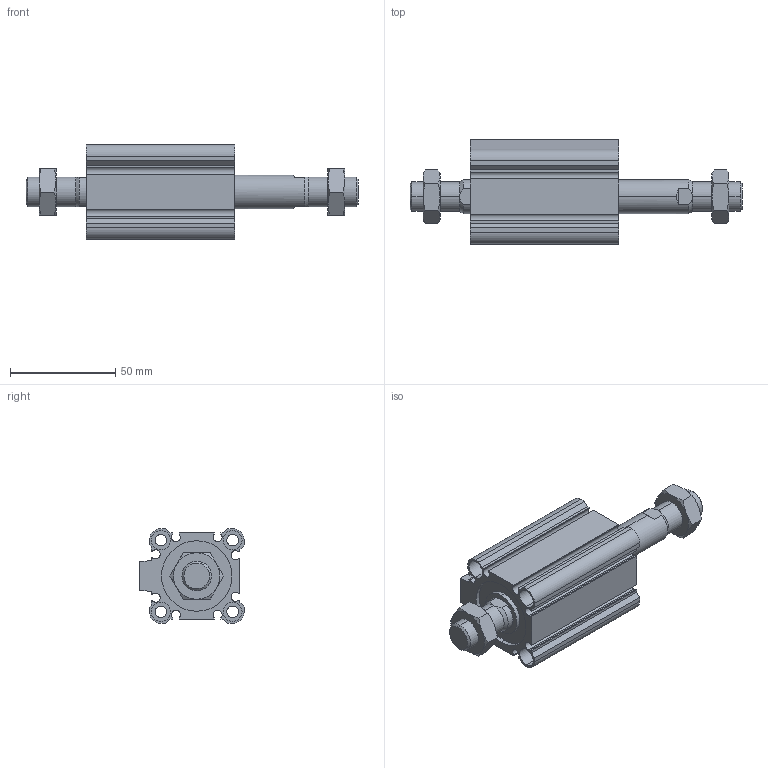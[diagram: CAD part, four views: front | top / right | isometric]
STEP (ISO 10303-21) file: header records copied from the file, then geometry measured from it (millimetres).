
FILE_DESCRIPTION (( 'STEP AP203' ), '1' );
FILE_NAME ('CCMB32-30M-P.STEP', '2020-08-10T11:34:00', ( '' ), ( '' ), 'SwSTEP 2.0', 'SolidWorks 2019', '' );
FILE_SCHEMA (( 'CONFIG_CONTROL_DESIGN' ));
Length unit declared in the file: millimetre
Products named in the file (1): CCMB32-30M-P
Bounding box: 157.5 x 49.5 x 45 mm (x, y, z)
Volume: 114341.6 mm3; surface area: 47571.7 mm2
Topology: 4 solids, 4 shells, 216 faces, 522 edges, 332 vertices
Faces by surface type: plane 94, cylinder 78, cone 44
Entity records: 7009 total; most frequent: CARTESIAN_POINT 1819, DIRECTION 1088, ORIENTED_EDGE 1044, EDGE_CURVE 522, AXIS2_PLACEMENT_3D 413, VERTEX_POINT 332, LINE 262, VECTOR 262
